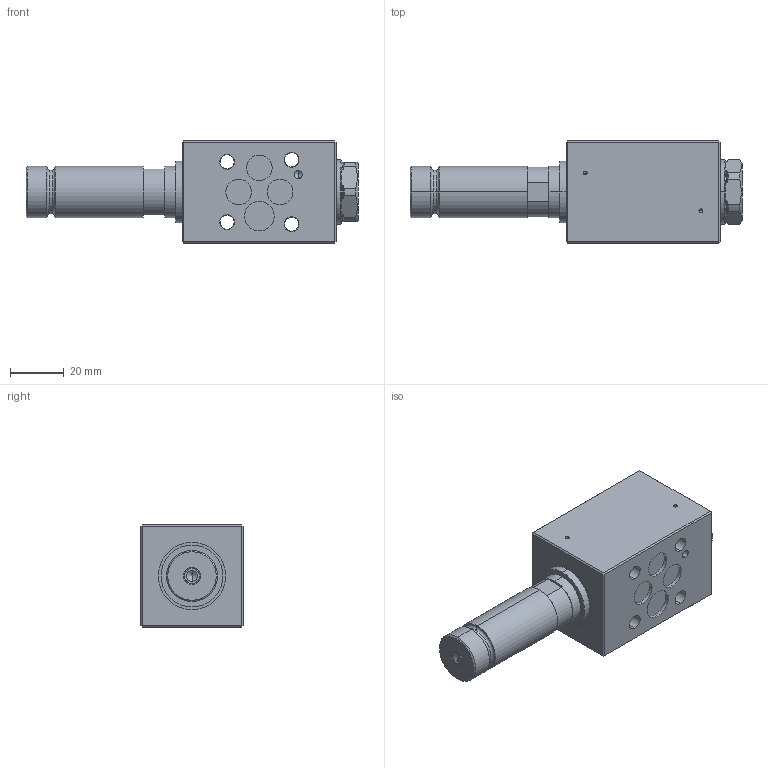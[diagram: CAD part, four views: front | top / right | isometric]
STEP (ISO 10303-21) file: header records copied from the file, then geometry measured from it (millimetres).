
FILE_DESCRIPTION (( 'STEP AP203' ), '1' );
FILE_NAME ('WDEFB04-4_2-Aside.step', '2013-07-08T06:42:03', ( 'Wandfluh AG' ), ( 'Wandfluh AG' ), 'SwSTEP 2.0', 'SolidWorks 2012', '' );
FILE_SCHEMA (( 'CONFIG_CONTROL_DESIGN' ));
Length unit declared in the file: millimetre
Products named in the file (1): WDEFB04-4_2-Aside
Bounding box: 123.5 x 38 x 38 mm (x, y, z)
Volume: 95852.7 mm3; surface area: 26285.8 mm2
Topology: 8 solids, 8 shells, 1091 faces, 3027 edges, 1984 vertices
Faces by surface type: plane 702, cylinder 292, cone 46, torus 32, bspline 19
Entity records: 36178 total; most frequent: CARTESIAN_POINT 7410, DIRECTION 6139, ORIENTED_EDGE 6038, EDGE_CURVE 3019, AXIS2_PLACEMENT_3D 2137, VERTEX_POINT 1984, LINE 1865, VECTOR 1865
